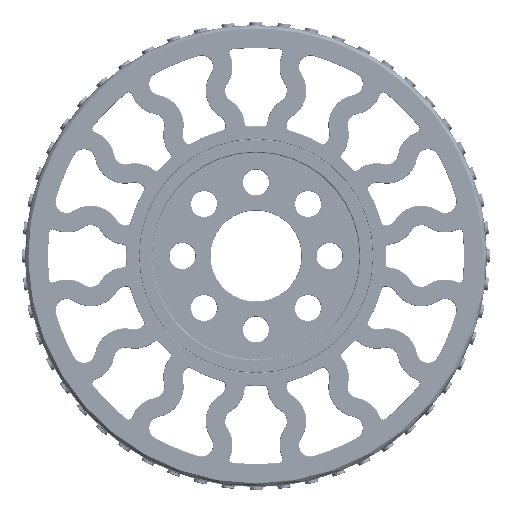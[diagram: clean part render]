
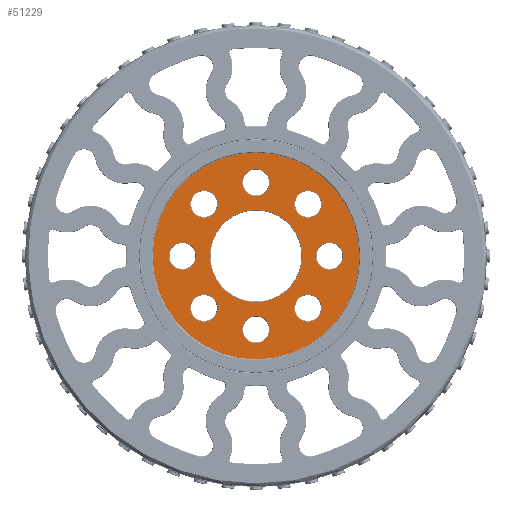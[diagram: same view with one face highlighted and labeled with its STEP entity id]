
A CAD part, front view. The second image highlights one B-rep face of the part: STEP entity #51229.
In plain terms, the highlighted planar face has unit normal (0, -1, 0).
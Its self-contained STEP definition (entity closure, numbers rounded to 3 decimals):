
#10605=FACE_BOUND('',#14418,.T.);
#10606=FACE_BOUND('',#14419,.T.);
#10607=FACE_BOUND('',#14420,.T.);
#10608=FACE_BOUND('',#14421,.T.);
#10609=FACE_BOUND('',#14422,.T.);
#10610=FACE_BOUND('',#14423,.T.);
#10611=FACE_BOUND('',#14424,.T.);
#10612=FACE_BOUND('',#14425,.T.);
#10613=FACE_BOUND('',#14426,.T.);
#10961=FACE_OUTER_BOUND('',#14417,.T.);
#14417=EDGE_LOOP('',(#34153));
#14418=EDGE_LOOP('',(#34154));
#14419=EDGE_LOOP('',(#34155));
#14420=EDGE_LOOP('',(#34156));
#14421=EDGE_LOOP('',(#34157));
#14422=EDGE_LOOP('',(#34158));
#14423=EDGE_LOOP('',(#34159));
#14424=EDGE_LOOP('',(#34160));
#14425=EDGE_LOOP('',(#34161));
#14426=EDGE_LOOP('',(#34162));
#18229=CIRCLE('',#54701,15.9);
#18230=CIRCLE('',#54702,2.1);
#18231=CIRCLE('',#54703,2.1);
#18232=CIRCLE('',#54704,2.1);
#18233=CIRCLE('',#54705,2.1);
#18234=CIRCLE('',#54706,7.1);
#18235=CIRCLE('',#54707,2.1);
#18236=CIRCLE('',#54708,2.1);
#18237=CIRCLE('',#54709,2.1);
#18238=CIRCLE('',#54710,2.1);
#20655=VERTEX_POINT('',#70091);
#20656=VERTEX_POINT('',#70093);
#20657=VERTEX_POINT('',#70095);
#20658=VERTEX_POINT('',#70097);
#20659=VERTEX_POINT('',#70099);
#20660=VERTEX_POINT('',#70101);
#20661=VERTEX_POINT('',#70103);
#20662=VERTEX_POINT('',#70105);
#20663=VERTEX_POINT('',#70107);
#20664=VERTEX_POINT('',#70109);
#25830=EDGE_CURVE('',#20655,#20655,#18229,.T.);
#25831=EDGE_CURVE('',#20656,#20656,#18230,.T.);
#25832=EDGE_CURVE('',#20657,#20657,#18231,.T.);
#25833=EDGE_CURVE('',#20658,#20658,#18232,.T.);
#25834=EDGE_CURVE('',#20659,#20659,#18233,.T.);
#25835=EDGE_CURVE('',#20660,#20660,#18234,.T.);
#25836=EDGE_CURVE('',#20661,#20661,#18235,.T.);
#25837=EDGE_CURVE('',#20662,#20662,#18236,.T.);
#25838=EDGE_CURVE('',#20663,#20663,#18237,.T.);
#25839=EDGE_CURVE('',#20664,#20664,#18238,.T.);
#34153=ORIENTED_EDGE('',*,*,#25830,.F.);
#34154=ORIENTED_EDGE('',*,*,#25831,.T.);
#34155=ORIENTED_EDGE('',*,*,#25832,.T.);
#34156=ORIENTED_EDGE('',*,*,#25833,.T.);
#34157=ORIENTED_EDGE('',*,*,#25834,.T.);
#34158=ORIENTED_EDGE('',*,*,#25835,.T.);
#34159=ORIENTED_EDGE('',*,*,#25836,.T.);
#34160=ORIENTED_EDGE('',*,*,#25837,.T.);
#34161=ORIENTED_EDGE('',*,*,#25838,.T.);
#34162=ORIENTED_EDGE('',*,*,#25839,.T.);
#50799=PLANE('',#54700);
#51229=ADVANCED_FACE('',(#10961,#10605,#10606,#10607,#10608,#10609,#10610,
#10611,#10612,#10613),#50799,.F.);
#54700=AXIS2_PLACEMENT_3D('',#70090,#59276,#59277);
#54701=AXIS2_PLACEMENT_3D('',#70092,#59278,#59279);
#54702=AXIS2_PLACEMENT_3D('',#70094,#59280,#59281);
#54703=AXIS2_PLACEMENT_3D('',#70096,#59282,#59283);
#54704=AXIS2_PLACEMENT_3D('',#70098,#59284,#59285);
#54705=AXIS2_PLACEMENT_3D('',#70100,#59286,#59287);
#54706=AXIS2_PLACEMENT_3D('',#70102,#59288,#59289);
#54707=AXIS2_PLACEMENT_3D('',#70104,#59290,#59291);
#54708=AXIS2_PLACEMENT_3D('',#70106,#59292,#59293);
#54709=AXIS2_PLACEMENT_3D('',#70108,#59294,#59295);
#54710=AXIS2_PLACEMENT_3D('',#70110,#59296,#59297);
#59276=DIRECTION('center_axis',(0.,1.,0.));
#59277=DIRECTION('ref_axis',(0.,0.,1.));
#59278=DIRECTION('center_axis',(0.,1.,0.));
#59279=DIRECTION('ref_axis',(0.,0.,1.));
#59280=DIRECTION('center_axis',(0.,1.,0.));
#59281=DIRECTION('ref_axis',(0.,0.,1.));
#59282=DIRECTION('center_axis',(0.,1.,0.));
#59283=DIRECTION('ref_axis',(0.,0.,1.));
#59284=DIRECTION('center_axis',(0.,1.,0.));
#59285=DIRECTION('ref_axis',(0.,0.,1.));
#59286=DIRECTION('center_axis',(0.,1.,0.));
#59287=DIRECTION('ref_axis',(0.,0.,1.));
#59288=DIRECTION('center_axis',(0.,1.,0.));
#59289=DIRECTION('ref_axis',(0.,0.,1.));
#59290=DIRECTION('center_axis',(0.,1.,0.));
#59291=DIRECTION('ref_axis',(0.,0.,1.));
#59292=DIRECTION('center_axis',(0.,1.,0.));
#59293=DIRECTION('ref_axis',(0.,0.,1.));
#59294=DIRECTION('center_axis',(0.,1.,0.));
#59295=DIRECTION('ref_axis',(0.,0.,1.));
#59296=DIRECTION('center_axis',(0.,1.,0.));
#59297=DIRECTION('ref_axis',(0.,0.,1.));
#70090=CARTESIAN_POINT('Origin',(0.,0.,
-16.));
#70091=CARTESIAN_POINT('',(0.,0.,15.9));
#70092=CARTESIAN_POINT('Origin',(0.,0.,0.));
#70093=CARTESIAN_POINT('',(-11.314,0.,-2.1));
#70094=CARTESIAN_POINT('Origin',(-11.314,0.,0.));
#70095=CARTESIAN_POINT('',(-8.,0.,-10.1));
#70096=CARTESIAN_POINT('Origin',(-8.,0.,-8.));
#70097=CARTESIAN_POINT('',(11.314,0.,-2.1));
#70098=CARTESIAN_POINT('Origin',(11.314,0.,0.));
#70099=CARTESIAN_POINT('',(-8.,0.,5.9));
#70100=CARTESIAN_POINT('Origin',(-8.,0.,8.));
#70101=CARTESIAN_POINT('',(0.,0.,-7.1));
#70102=CARTESIAN_POINT('Origin',(0.,0.,0.));
#70103=CARTESIAN_POINT('',(8.,0.,-10.1));
#70104=CARTESIAN_POINT('Origin',(8.,0.,-8.));
#70105=CARTESIAN_POINT('',(0.,0.,-13.414));
#70106=CARTESIAN_POINT('Origin',(0.,0.,-11.314));
#70107=CARTESIAN_POINT('',(8.,0.,5.9));
#70108=CARTESIAN_POINT('Origin',(8.,0.,8.));
#70109=CARTESIAN_POINT('',(0.,0.,9.214));
#70110=CARTESIAN_POINT('Origin',(0.,0.,11.314));
